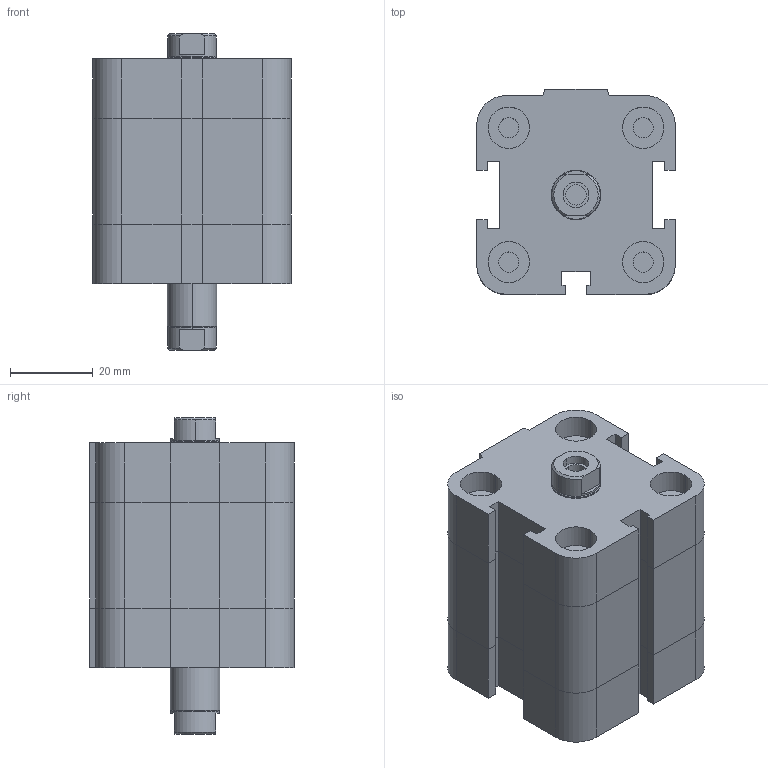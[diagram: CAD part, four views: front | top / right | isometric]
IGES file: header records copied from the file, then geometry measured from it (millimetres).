
Global section: file name: No Iges File Name specified; native system: Autodesk Inventor 2009; preprocessor: AutoDesk Inventor Iges Exporter R2009; author: maffial1; date: 20090420.200334; units: millimetre
Bounding box: 48 x 49.5 x 76.5 mm (x, y, z)
Volume: 109777.2 mm3; surface area: 25590.9 mm2
Topology: 2 solids, 2 shells, 202 faces, 450 edges, 274 vertices
Faces by surface type: plane 114, bspline 42, revolution 20, cylinder 18, cone 8
